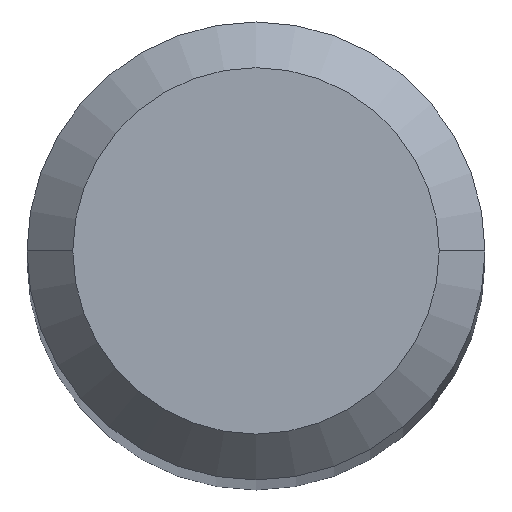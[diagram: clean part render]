
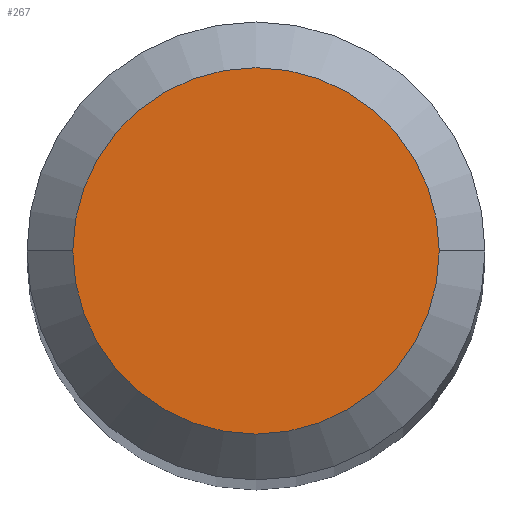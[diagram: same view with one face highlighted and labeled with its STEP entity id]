
A CAD part, top view. The second image highlights one B-rep face of the part: STEP entity #267.
In plain terms, the highlighted planar face has unit normal (0, 0, 1).
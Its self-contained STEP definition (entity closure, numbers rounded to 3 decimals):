
#19 = DIRECTION ( 'NONE',  ( 0., 0., -1. ) ) ;
#64 = CARTESIAN_POINT ( 'NONE',  ( 1.2, 0., 0. ) ) ;
#67 = ORIENTED_EDGE ( 'NONE', *, *, #77, .F. ) ;
#77 = EDGE_CURVE ( 'NONE', #247, #364, #611, .T. ) ;
#99 = DIRECTION ( 'NONE',  ( 1., 0., 0. ) ) ;
#111 = CARTESIAN_POINT ( 'NONE',  ( 0., 0., 0. ) ) ;
#201 = CARTESIAN_POINT ( 'NONE',  ( -1.2, 0., 0. ) ) ;
#211 = EDGE_LOOP ( 'NONE', ( #67, #455 ) ) ;
#227 = AXIS2_PLACEMENT_3D ( 'NONE', #591, #554, #558 ) ;
#246 = FACE_OUTER_BOUND ( 'NONE', #211, .T. ) ;
#247 = VERTEX_POINT ( 'NONE', #201 ) ;
#258 = DIRECTION ( 'NONE',  ( -1., 0., 0. ) ) ;
#267 = ADVANCED_FACE ( 'NONE', ( #246 ), #340, .T. ) ;
#340 = PLANE ( 'NONE',  #618 ) ;
#364 = VERTEX_POINT ( 'NONE', #64 ) ;
#383 = EDGE_CURVE ( 'NONE', #364, #247, #552, .T. ) ;
#455 = ORIENTED_EDGE ( 'NONE', *, *, #383, .F. ) ;
#484 = CARTESIAN_POINT ( 'NONE',  ( 0., 1.2, 0. ) ) ;
#552 = CIRCLE ( 'NONE', #227, 1.2 ) ;
#554 = DIRECTION ( 'NONE',  ( 0., 0., -1. ) ) ;
#558 = DIRECTION ( 'NONE',  ( -1., 0., 0. ) ) ;
#582 = DIRECTION ( 'NONE',  ( 0., 0., 1. ) ) ;
#591 = CARTESIAN_POINT ( 'NONE',  ( 0., 0., 0. ) ) ;
#602 = AXIS2_PLACEMENT_3D ( 'NONE', #111, #19, #258 ) ;
#611 = CIRCLE ( 'NONE', #602, 1.2 ) ;
#618 = AXIS2_PLACEMENT_3D ( 'NONE', #484, #582, #99 ) ;
